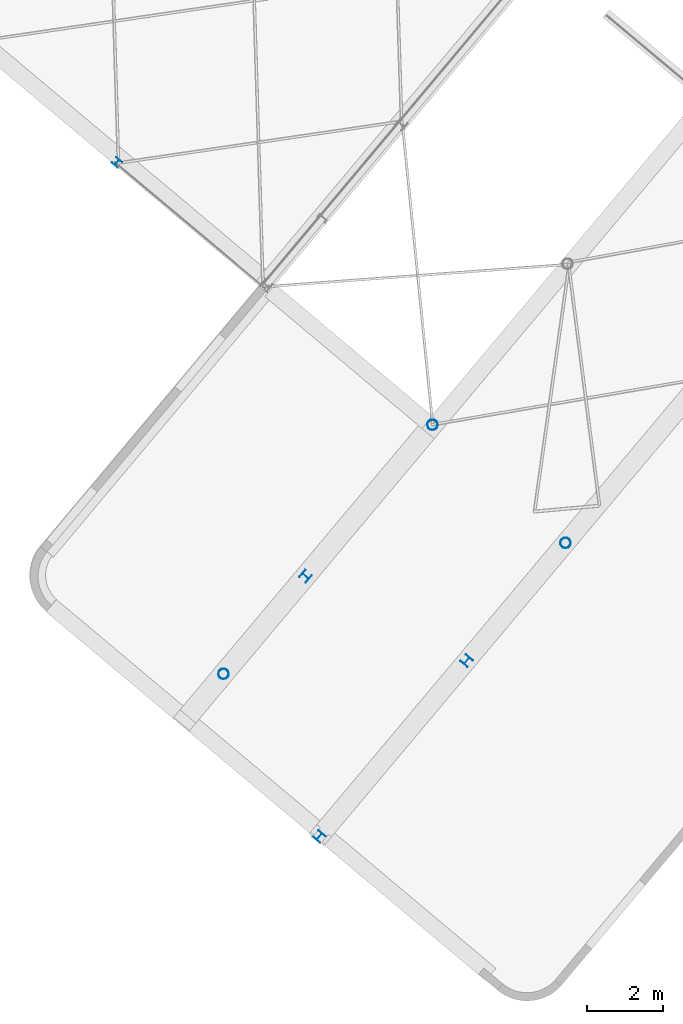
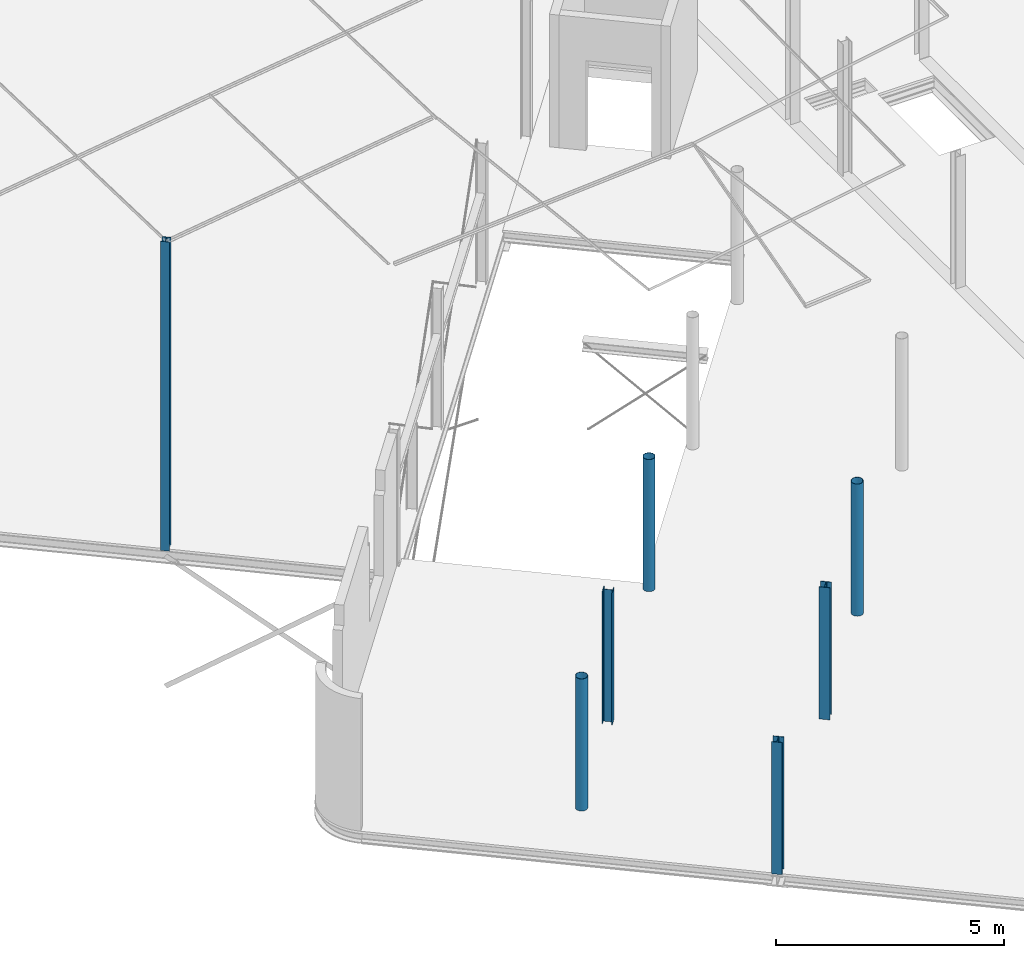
# One storey, part 1 of 25: 7 columns.
"""IFC2X3 building model written with IfcOpenShell, lengths in millimetres."""

from ifc_helpers import new_model, entity, si_unit, converted_unit, derived_unit, direction, frame, frame_2d, origin, origin_2d_with_axis, place, context, subcontext, project, spatial, hollow_circle, i_section, extrude, source, transform, mapped, material, type_object, type_shapes, element, save


model = new_model("IFC2X3")

# Units and contexts
model_context = context("Model", 3, precision=0.01, world=origin(), true_north=direction((6.123031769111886e-17, 1.0)))
body_context = subcontext(model_context, "Body", "Model", "MODEL_VIEW")
ifc_project = project(units=[si_unit("LENGTHUNIT", "METRE", prefix="MILLI"), si_unit("AREAUNIT", "SQUARE_METRE"), si_unit("VOLUMEUNIT", "CUBIC_METRE"), derived_unit("MASSDENSITYUNIT", [(si_unit("MASSUNIT", "GRAM", prefix="KILO"), 1), (si_unit("LENGTHUNIT", "METRE"), -3)]), si_unit("MASSUNIT", "GRAM", prefix="KILO"), converted_unit("PLANEANGLEUNIT", "DEGREE", entity("IfcPlaneAngleMeasure", 0.017453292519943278), si_unit("PLANEANGLEUNIT", "RADIAN"), dimensions=[0, 0, 0, 0, 0, 0, 0])], contexts=[model_context])

# Site, building, storey
site_placement = place(None, origin())
site = spatial("IfcSite", under=ifc_project, at=site_placement, Name="Default", CompositionType="ELEMENT")
building_placement = place(site_placement, origin())
building = spatial("IfcBuilding", under=site, at=building_placement, Name="AT constructie", CompositionType="ELEMENT")
storey_placement = place(building_placement, frame((0.0, 0.0, 3864.0)))
storey = spatial("IfcBuildingStorey", under=building, at=storey_placement, Name="01 eerste verdieping", CompositionType="ELEMENT", Elevation=3864.0)

# Columns
ifc_material = material(Name="h2_staal_S355")
column_type_1 = type_object("IfcColumnType", Name="kolom_gen_ø273x8", PredefinedType="COLUMN", material=ifc_material)
shared_shape_1 = source(origin(), body_context, "Body", "SweptSolid", [
    extrude(hollow_circle(Radius=136.5, WallThickness=8.0, at=origin_2d_with_axis()), frame((32989.80457595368, 13555.601915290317, 3814.0), z_axis=(0.0, 0.0, 1.0), x_axis=(-0.6427876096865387, -0.7660444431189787, 0.0)), (0.0, 0.0, 1.0), 3528.999999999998),
])
type_shapes(column_type_1, [shared_shape_1])
column_1_placement = place(storey_placement, frame((0.0, 0.0, -3864.0)))
element("IfcColumn", 1, at=column_1_placement, inside=storey, type_object=column_type_1, material=ifc_material, Name="NLRS_28_SC_TLB_kolom buis_gen_AT:kolom_gen_ø273x8", ObjectType="NLRS_28_SC_TLB_kolom buis_gen_AT:kolom_gen_ø273x8", context=body_context, shape_type="MappedRepresentation", body=[
    mapped(shared_shape_1, transform((0.0, 0.0, 0.0), scale=1.0)),
])
column_type_2 = type_object("IfcColumnType", Name="kolom_gen_HEA240", PredefinedType="COLUMN", material=ifc_material)
shared_shape_2 = source(origin(), body_context, "Body", "SweptSolid", [
    extrude(i_section(OverallWidth=239.99999999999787, OverallDepth=230.00000000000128, WebThickness=7.500000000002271, FlangeThickness=12.00000000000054, FilletRadius=21.0, at=origin_2d_with_axis()), frame((30405.194609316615, 10475.383702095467, 3814.0), z_axis=(0.0, 0.0, 1.0), x_axis=(0.7660444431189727, -0.6427876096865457, 0.0)), (0.0, 0.0, 1.0), 3528.9999999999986),
])
type_shapes(column_type_2, [shared_shape_2])
column_2_placement = place(storey_placement, frame((0.0, 0.0, -3864.0)))
element("IfcColumn", 2, at=column_2_placement, inside=storey, type_object=column_type_2, material=ifc_material, Name="NLRS_28_SC_TLB_kolom HEA_gen_AT:kolom_gen_HEA240", ObjectType="NLRS_28_SC_TLB_kolom HEA_gen_AT:kolom_gen_HEA240", context=body_context, shape_type="MappedRepresentation", body=[
    mapped(shared_shape_2, transform((0.0, 0.0, 0.0), scale=1.0)),
])
column_type_3 = type_object("IfcColumnType", Name="kolom_gen_HEA240", PredefinedType="COLUMN", material=ifc_material)
shared_shape_3 = source(origin(), body_context, "Body", "SweptSolid", [
    extrude(i_section(OverallWidth=239.99999999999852, OverallDepth=230.00000000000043, WebThickness=7.500000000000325, FlangeThickness=12.0000000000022, FilletRadius=21.0, at=origin_2d_with_axis()), frame((26550.036908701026, 5880.985662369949, 3814.0), z_axis=(0.0, 0.0, 1.0), x_axis=(0.7660444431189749, -0.6427876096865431, 0.0)), (0.0, 0.0, 1.0), 3528.9999999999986),
])
type_shapes(column_type_3, [shared_shape_3])
column_3_placement = place(storey_placement, frame((0.0, 0.0, -3864.0)))
element("IfcColumn", 3, at=column_3_placement, inside=storey, type_object=column_type_3, material=ifc_material, Name="NLRS_28_SC_TLB_kolom HEA_gen_AT:kolom_gen_HEA240", ObjectType="NLRS_28_SC_TLB_kolom HEA_gen_AT:kolom_gen_HEA240", context=body_context, shape_type="MappedRepresentation", body=[
    mapped(shared_shape_3, transform((0.0, 0.0, 0.0), scale=1.0)),
])
column_type_4 = type_object("IfcColumnType", Name="kolom_gen_HEA200", PredefinedType="COLUMN", material=ifc_material)
shared_shape_4 = source(origin(), body_context, "Body", "SweptSolid", [
    extrude(i_section(OverallWidth=199.99999999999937, OverallDepth=190.0000000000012, WebThickness=6.500000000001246, FlangeThickness=9.999999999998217, FilletRadius=18.0, at=origin_2d_with_axis()), frame((21262.6779876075, 23506.789129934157, 3603.0), z_axis=(0.0, 0.0, 1.0), x_axis=(0.7660444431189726, -0.6427876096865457, 0.0)), (0.0, 0.0, 1.0), 8259.999999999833),
])
type_shapes(column_type_4, [shared_shape_4])
column_4_placement = place(storey_placement, frame((0.0, 0.0, -3864.0)))
element("IfcColumn", 4, at=column_4_placement, inside=storey, type_object=column_type_4, material=ifc_material, Name="NLRS_28_SC_TLB_kolom HEA_gen_AT:kolom_gen_HEA200", ObjectType="NLRS_28_SC_TLB_kolom HEA_gen_AT:kolom_gen_HEA200", context=body_context, shape_type="MappedRepresentation", body=[
    mapped(shared_shape_4, transform((0.0, 0.0, 0.0), scale=1.0)),
])
column_type_5 = type_object("IfcColumnType", Name="kolom_gen_ø273x8", PredefinedType="COLUMN", material=ifc_material)
shared_shape_5 = source(origin(), body_context, "Body", "SweptSolid", [
    extrude(hollow_circle(Radius=136.5, WallThickness=8.0, at=origin_2d_with_axis()), frame((29511.26030470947, 16644.150077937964, 3814.0), z_axis=(0.0, 0.0, 1.0), x_axis=(0.642787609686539, 0.7660444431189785, 0.0)), (0.0, 0.0, 1.0), 3528.999999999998),
])
type_shapes(column_type_5, [shared_shape_5])
column_5_placement = place(storey_placement, frame((0.0, 0.0, -3864.0)))
element("IfcColumn", 5, at=column_5_placement, inside=storey, type_object=column_type_5, material=ifc_material, Name="NLRS_28_SC_TLB_kolom buis_gen_AT:kolom_gen_ø273x8", ObjectType="NLRS_28_SC_TLB_kolom buis_gen_AT:kolom_gen_ø273x8", context=body_context, shape_type="MappedRepresentation", body=[
    mapped(shared_shape_5, transform((0.0, 0.0, 0.0), scale=1.0)),
])
column_type_6 = type_object("IfcColumnType", Name="kolom_gen_HEA240", PredefinedType="COLUMN", material=ifc_material)
shared_shape_6 = source(origin(), body_context, "Body", "SweptSolid", [
    extrude(i_section(OverallWidth=240.00000000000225, OverallDepth=229.99999999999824, WebThickness=7.500000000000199, FlangeThickness=12.000000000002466, FilletRadius=21.0, at=frame_2d((5.8335558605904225e-12, -3.581135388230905e-12), x_axis=(1.0, 0.0))), frame((26191.2623006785, 12687.530529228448, 3814.0), z_axis=(0.0, 0.0, 1.0), x_axis=(-0.642787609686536, -0.7660444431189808, 0.0)), (0.0, 0.0, 1.0), 3528.9999999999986),
])
type_shapes(column_type_6, [shared_shape_6])
column_6_placement = place(storey_placement, frame((0.0, 0.0, -3864.0)))
element("IfcColumn", 6, at=column_6_placement, inside=storey, type_object=column_type_6, material=ifc_material, Name="NLRS_28_SC_TLB_kolom HEA_gen_AT:kolom_gen_HEA240", ObjectType="NLRS_28_SC_TLB_kolom HEA_gen_AT:kolom_gen_HEA240", context=body_context, shape_type="MappedRepresentation", body=[
    mapped(shared_shape_6, transform((0.0, 0.0, 0.0), scale=1.0)),
])
column_type_7 = type_object("IfcColumnType", Name="kolom_gen_ø273x8", PredefinedType="COLUMN", material=ifc_material)
shared_shape_7 = source(origin(), body_context, "Body", "SweptSolid", [
    extrude(hollow_circle(Radius=136.5, WallThickness=8.0, at=origin_2d_with_axis()), frame((24047.56562237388, 10132.772311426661, 3814.0), z_axis=(0.0, 0.0, 1.0), x_axis=(0.642787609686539, 0.7660444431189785, 0.0)), (0.0, 0.0, 1.0), 3528.999999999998),
])
type_shapes(column_type_7, [shared_shape_7])
column_7_placement = place(storey_placement, frame((0.0, 0.0, -3864.0)))
element("IfcColumn", 7, at=column_7_placement, inside=storey, type_object=column_type_7, material=ifc_material, Name="NLRS_28_SC_TLB_kolom buis_gen_AT:kolom_gen_ø273x8", ObjectType="NLRS_28_SC_TLB_kolom buis_gen_AT:kolom_gen_ø273x8", context=body_context, shape_type="MappedRepresentation", body=[
    mapped(shared_shape_7, transform((0.0, 0.0, 0.0), scale=1.0)),
])

save(model, "model.ifc")
